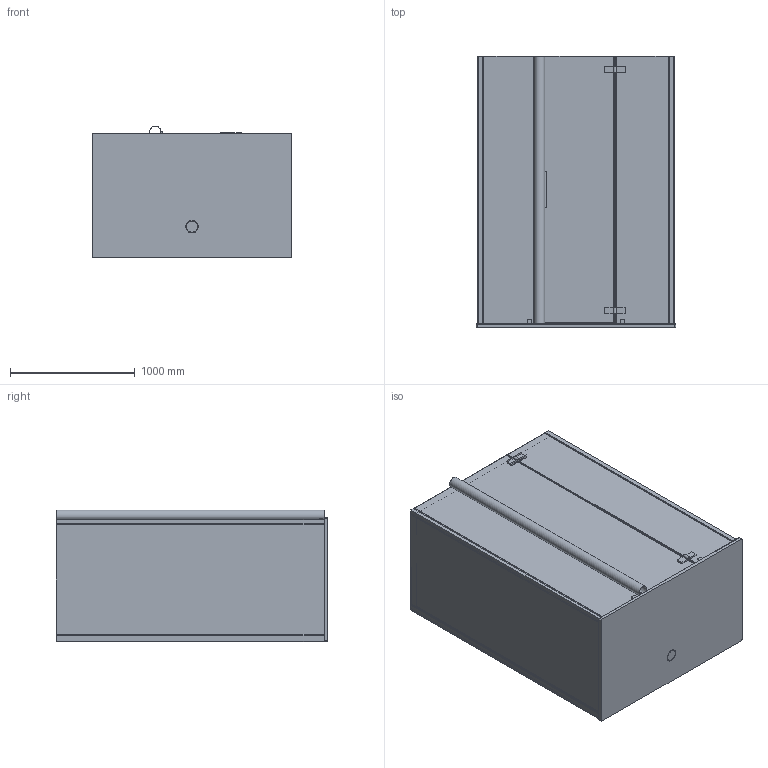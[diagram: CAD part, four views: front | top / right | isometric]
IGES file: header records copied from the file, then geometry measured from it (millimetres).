
Start section: SolidWorks IGES file using analytic representation for surfaces
Global section: file name: D:\Users\M.Szymanski\Desktop\Kabiny\SENSEPEREINCE\03. do przegrania\Senseperience_1600x1000_V_K3D.IGS; native system: SolidWorks 2011; preprocessor: SolidWorks 2011; author: M.Szymanski; date: 181218.094233; units: millimetre
Bounding box: 1600 x 2180 x 1057.39 mm (x, y, z)
Surface area: 36007918.3 mm2 (no closed solid volume)
Topology: 0 solids, 0 shells, 1834 faces, 12523 edges, 15191 vertices
Faces by surface type: bspline 1190, revolution 644
